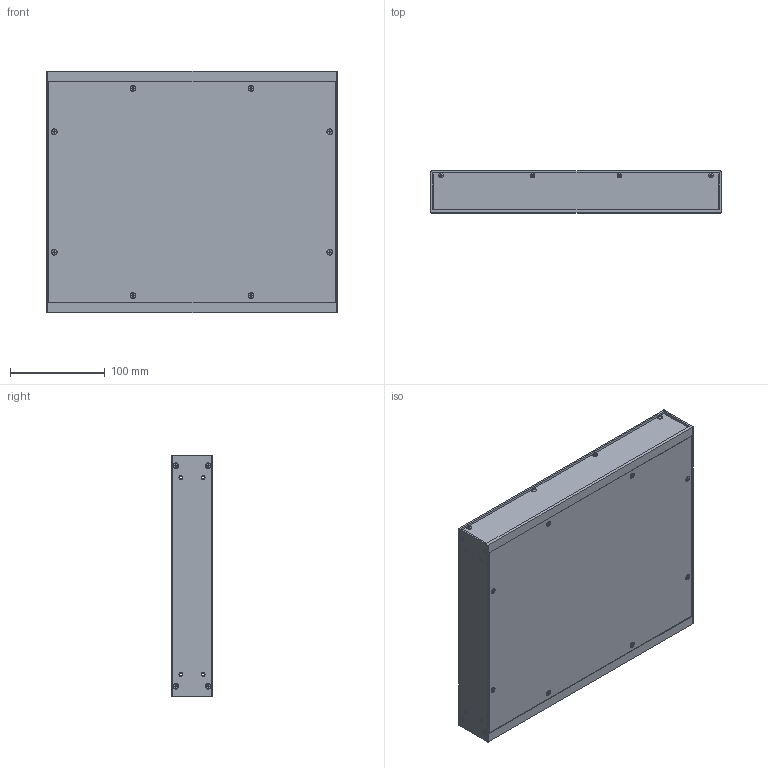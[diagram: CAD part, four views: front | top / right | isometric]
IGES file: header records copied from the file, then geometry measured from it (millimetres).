
Start section:  PTC IGES file: sc-2345.igs
Global section: file name: sc-2345.igs; native system: Creo Parametric by PTC Inc.; preprocessor: 2017480; author: dkendric; organization: Unknown; date: 20180509.141342; units: inch
Bounding box: 306.32 x 43.94 x 254 mm (x, y, z)
Surface area: 455821.9 mm2 (no closed solid volume)
Topology: 0 solids, 0 shells, 1598 faces, 8208 edges, 7696 vertices
Faces by surface type: bspline 1116, revolution 482
